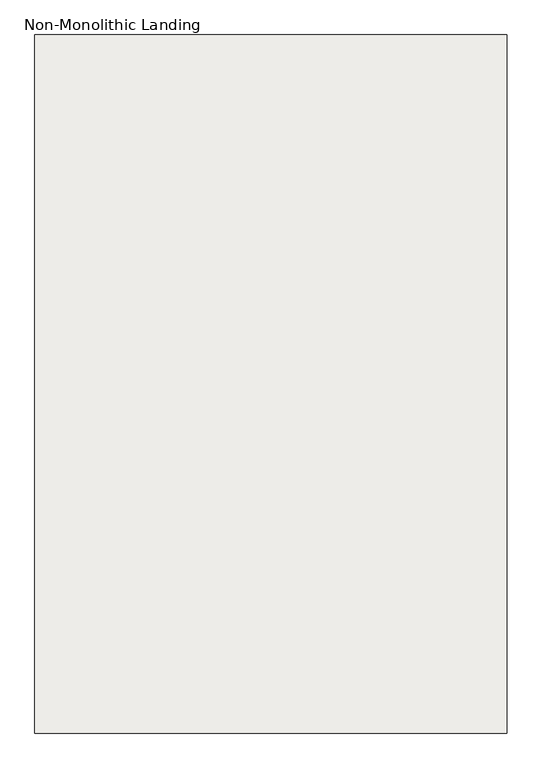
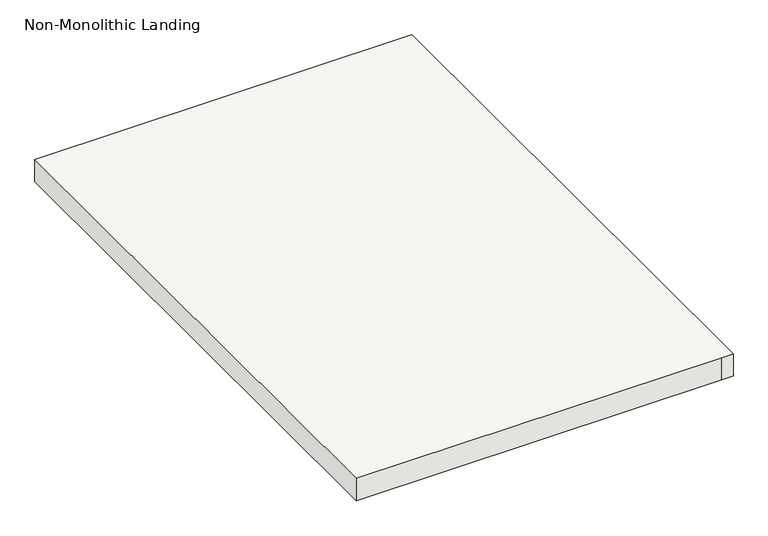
"""IFC4 building model written with IfcOpenShell, lengths in millimetres: slab geometry, Non-Monolithic Landing."""

from ifc_helpers import new_model, si_unit, frame, origin, place, context, project, spatial, polyline, outline, extrude, source, transform, mapped, element, save


def non_monolithic_landing_61f27d39(model_context):
    return source(origin(), model_context, "Body", "SweptSolid", [
        extrude(outline(polyline([(-15652.4813244, -2661.1276112), (-14865.0813244, -2661.1276112), (-14839.6813244, -2661.1276112), (-14839.6813244, -3862.1362112), (-14865.0813244, -3862.1362112), (-15652.4813244, -3862.1362112), (-15652.4813244, -2661.1276112)])), frame((0.0, 0.0, 1690.9142857), z_axis=(0.0, 0.0, 1.0), x_axis=(1.0, 0.0, 0.0)), (0.0, 0.0, 1.0), 50.8),
    ])


if __name__ == "__main__":
    model = new_model("IFC4")
    model_context = context("Model", 3, world=origin())
    ifc_project = project(units=[si_unit("LENGTHUNIT", "METRE", prefix="MILLI")], contexts=[model_context])
    site = spatial("IfcSite", under=ifc_project)
    building = spatial("IfcBuilding", under=site)
    placement = place(None, origin())
    non_monolithic_landing_shape = non_monolithic_landing_61f27d39(model_context)
    element("IfcSlab", 1, ObjectType="Non-Monolithic Landing", at=placement, inside=building, context=model_context, shape_type="MappedRepresentation", body=[
        mapped(non_monolithic_landing_shape, transform((0.0, 0.0, 0.0), x_axis=(1.0, 0.0, 0.0), y_axis=(0.0, 1.0, 0.0), z_axis=(0.0, 0.0, 1.0))),
    ])
    save(model, "model.ifc")
